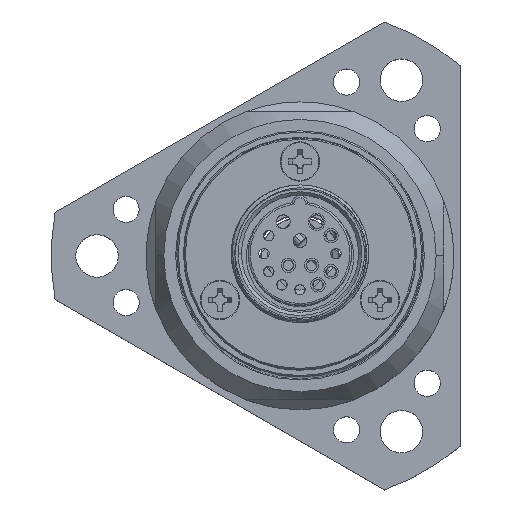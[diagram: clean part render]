
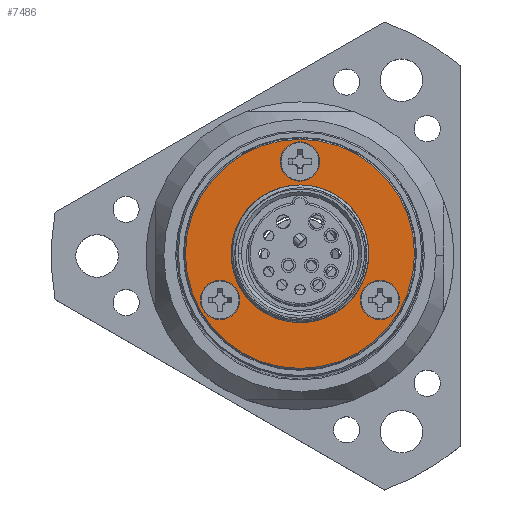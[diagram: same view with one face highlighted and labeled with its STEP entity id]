
A CAD part, top view. The second image highlights one B-rep face of the part: STEP entity #7486.
In plain terms, the highlighted planar face has unit normal (0, 0, 1).
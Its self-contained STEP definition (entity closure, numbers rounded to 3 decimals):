
#90 = DIRECTION ( 'NONE',  ( 0., 0., -1. ) ) ;
#344 = CIRCLE ( 'NONE', #17945, 2.9 ) ;
#637 = FACE_BOUND ( 'NONE', #10135, .T. ) ;
#694 = VERTEX_POINT ( 'NONE', #9678 ) ;
#725 = CARTESIAN_POINT ( 'NONE',  ( -9.311, -7.05, 194.05 ) ) ;
#739 = AXIS2_PLACEMENT_3D ( 'NONE', #15397, #7035, #17383 ) ;
#852 = FACE_OUTER_BOUND ( 'NONE', #5930, .T. ) ;
#1071 = CARTESIAN_POINT ( 'NONE',  ( 0., 0., 194.05 ) ) ;
#1139 = VERTEX_POINT ( 'NONE', #725 ) ;
#1237 = DIRECTION ( 'NONE',  ( 1., 0., 0. ) ) ;
#1424 = CARTESIAN_POINT ( 'NONE',  ( -12.211, -7.05, 194.05 ) ) ;
#1662 = CARTESIAN_POINT ( 'NONE',  ( 12.211, -7.05, 194.05 ) ) ;
#1864 = DIRECTION ( 'NONE',  ( 0., 0., -1. ) ) ;
#1949 = CARTESIAN_POINT ( 'NONE',  ( 0., 0., 194.05 ) ) ;
#2080 = AXIS2_PLACEMENT_3D ( 'NONE', #1071, #7908, #15112 ) ;
#2201 = ORIENTED_EDGE ( 'NONE', *, *, #20805, .T. ) ;
#2281 = FACE_BOUND ( 'NONE', #16784, .T. ) ;
#2540 = AXIS2_PLACEMENT_3D ( 'NONE', #21034, #16062, #12669 ) ;
#2600 = ORIENTED_EDGE ( 'NONE', *, *, #6504, .T. ) ;
#2975 = DIRECTION ( 'NONE',  ( 1., 0., 0. ) ) ;
#3001 = DIRECTION ( 'NONE',  ( 0., 0., -1. ) ) ;
#3382 = AXIS2_PLACEMENT_3D ( 'NONE', #11238, #17949, #2975 ) ;
#3475 = EDGE_CURVE ( 'NONE', #694, #1139, #6564, .T. ) ;
#3497 = EDGE_CURVE ( 'NONE', #12740, #9128, #19564, .T. ) ;
#3868 = CARTESIAN_POINT ( 'NONE',  ( 10.5, 0., 194.05 ) ) ;
#3892 = ORIENTED_EDGE ( 'NONE', *, *, #18654, .T. ) ;
#4281 = CIRCLE ( 'NONE', #15171, 17.5 ) ;
#4751 = CARTESIAN_POINT ( 'NONE',  ( -2.9, 14.1, 194.05 ) ) ;
#4955 = CIRCLE ( 'NONE', #739, 2.9 ) ;
#5584 = FACE_BOUND ( 'NONE', #7867, .T. ) ;
#5930 = EDGE_LOOP ( 'NONE', ( #12435, #12080 ) ) ;
#6088 = CARTESIAN_POINT ( 'NONE',  ( 0., 0., 194.05 ) ) ;
#6236 = VERTEX_POINT ( 'NONE', #6623 ) ;
#6421 = AXIS2_PLACEMENT_3D ( 'NONE', #6088, #3001, #19525 ) ;
#6504 = EDGE_CURVE ( 'NONE', #9128, #12740, #17737, .T. ) ;
#6507 = DIRECTION ( 'NONE',  ( 1., 0., 0. ) ) ;
#6564 = CIRCLE ( 'NONE', #13580, 2.9 ) ;
#6587 = ORIENTED_EDGE ( 'NONE', *, *, #20725, .T. ) ;
#6623 = CARTESIAN_POINT ( 'NONE',  ( 15.111, -7.05, 194.05 ) ) ;
#7035 = DIRECTION ( 'NONE',  ( 0., 0., -1. ) ) ;
#7256 = EDGE_CURVE ( 'NONE', #18197, #12656, #8103, .T. ) ;
#7486 = ADVANCED_FACE ( 'NONE', ( #637, #17370, #5584, #2281, #852 ), #16038, .T. ) ;
#7867 = EDGE_LOOP ( 'NONE', ( #2201, #12635 ) ) ;
#7908 = DIRECTION ( 'NONE',  ( 0., 0., 1. ) ) ;
#8067 = EDGE_CURVE ( 'NONE', #6236, #8419, #344, .T. ) ;
#8103 = CIRCLE ( 'NONE', #9489, 10.5 ) ;
#8419 = VERTEX_POINT ( 'NONE', #12204 ) ;
#8476 = AXIS2_PLACEMENT_3D ( 'NONE', #13229, #90, #6507 ) ;
#8819 = CIRCLE ( 'NONE', #8476, 2.9 ) ;
#9128 = VERTEX_POINT ( 'NONE', #19550 ) ;
#9317 = CARTESIAN_POINT ( 'NONE',  ( -17.5, 0., 194.05 ) ) ;
#9489 = AXIS2_PLACEMENT_3D ( 'NONE', #1949, #13528, #17148 ) ;
#9678 = CARTESIAN_POINT ( 'NONE',  ( -15.111, -7.05, 194.05 ) ) ;
#10135 = EDGE_LOOP ( 'NONE', ( #3892, #13246 ) ) ;
#10466 = CARTESIAN_POINT ( 'NONE',  ( 0., 14.1, 194.05 ) ) ;
#10642 = VERTEX_POINT ( 'NONE', #9317 ) ;
#11238 = CARTESIAN_POINT ( 'NONE',  ( 0., 14.1, 194.05 ) ) ;
#11373 = DIRECTION ( 'NONE',  ( 0., 0., -1. ) ) ;
#11401 = CARTESIAN_POINT ( 'NONE',  ( 0., 0., 194.05 ) ) ;
#11705 = EDGE_LOOP ( 'NONE', ( #11829, #6587 ) ) ;
#11829 = ORIENTED_EDGE ( 'NONE', *, *, #8067, .T. ) ;
#12080 = ORIENTED_EDGE ( 'NONE', *, *, #17974, .F. ) ;
#12204 = CARTESIAN_POINT ( 'NONE',  ( 9.311, -7.05, 194.05 ) ) ;
#12435 = ORIENTED_EDGE ( 'NONE', *, *, #16376, .F. ) ;
#12635 = ORIENTED_EDGE ( 'NONE', *, *, #3475, .T. ) ;
#12656 = VERTEX_POINT ( 'NONE', #3868 ) ;
#12669 = DIRECTION ( 'NONE',  ( -1., 0., 0. ) ) ;
#12740 = VERTEX_POINT ( 'NONE', #4751 ) ;
#13229 = CARTESIAN_POINT ( 'NONE',  ( 12.211, -7.05, 194.05 ) ) ;
#13246 = ORIENTED_EDGE ( 'NONE', *, *, #7256, .T. ) ;
#13528 = DIRECTION ( 'NONE',  ( 0., 0., -1. ) ) ;
#13580 = AXIS2_PLACEMENT_3D ( 'NONE', #1424, #14540, #14862 ) ;
#14063 = VERTEX_POINT ( 'NONE', #19703 ) ;
#14540 = DIRECTION ( 'NONE',  ( 0., 0., -1. ) ) ;
#14862 = DIRECTION ( 'NONE',  ( 1., 0., 0. ) ) ;
#15112 = DIRECTION ( 'NONE',  ( 1., 0., 0. ) ) ;
#15171 = AXIS2_PLACEMENT_3D ( 'NONE', #11401, #18001, #21632 ) ;
#15397 = CARTESIAN_POINT ( 'NONE',  ( -12.211, -7.05, 194.05 ) ) ;
#15902 = CIRCLE ( 'NONE', #6421, 10.5 ) ;
#16038 = PLANE ( 'NONE',  #2080 ) ;
#16062 = DIRECTION ( 'NONE',  ( 0., 0., -1. ) ) ;
#16376 = EDGE_CURVE ( 'NONE', #10642, #14063, #17666, .T. ) ;
#16784 = EDGE_LOOP ( 'NONE', ( #2600, #18702 ) ) ;
#16876 = CARTESIAN_POINT ( 'NONE',  ( -10.5, 0., 194.05 ) ) ;
#17148 = DIRECTION ( 'NONE',  ( 1., 0., 0. ) ) ;
#17370 = FACE_BOUND ( 'NONE', #11705, .T. ) ;
#17383 = DIRECTION ( 'NONE',  ( 1., 0., 0. ) ) ;
#17666 = CIRCLE ( 'NONE', #2540, 17.5 ) ;
#17737 = CIRCLE ( 'NONE', #20546, 2.9 ) ;
#17945 = AXIS2_PLACEMENT_3D ( 'NONE', #1662, #11373, #1237 ) ;
#17949 = DIRECTION ( 'NONE',  ( 0., 0., -1. ) ) ;
#17974 = EDGE_CURVE ( 'NONE', #14063, #10642, #4281, .T. ) ;
#18001 = DIRECTION ( 'NONE',  ( 0., 0., -1. ) ) ;
#18197 = VERTEX_POINT ( 'NONE', #16876 ) ;
#18654 = EDGE_CURVE ( 'NONE', #12656, #18197, #15902, .T. ) ;
#18702 = ORIENTED_EDGE ( 'NONE', *, *, #3497, .T. ) ;
#19525 = DIRECTION ( 'NONE',  ( 1., 0., 0. ) ) ;
#19550 = CARTESIAN_POINT ( 'NONE',  ( 2.9, 14.1, 194.05 ) ) ;
#19564 = CIRCLE ( 'NONE', #3382, 2.9 ) ;
#19703 = CARTESIAN_POINT ( 'NONE',  ( 17.5, 0., 194.05 ) ) ;
#20546 = AXIS2_PLACEMENT_3D ( 'NONE', #10466, #1864, #20591 ) ;
#20591 = DIRECTION ( 'NONE',  ( 1., 0., 0. ) ) ;
#20725 = EDGE_CURVE ( 'NONE', #8419, #6236, #8819, .T. ) ;
#20805 = EDGE_CURVE ( 'NONE', #1139, #694, #4955, .T. ) ;
#21034 = CARTESIAN_POINT ( 'NONE',  ( 0., 0., 194.05 ) ) ;
#21632 = DIRECTION ( 'NONE',  ( -1., 0., 0. ) ) ;
